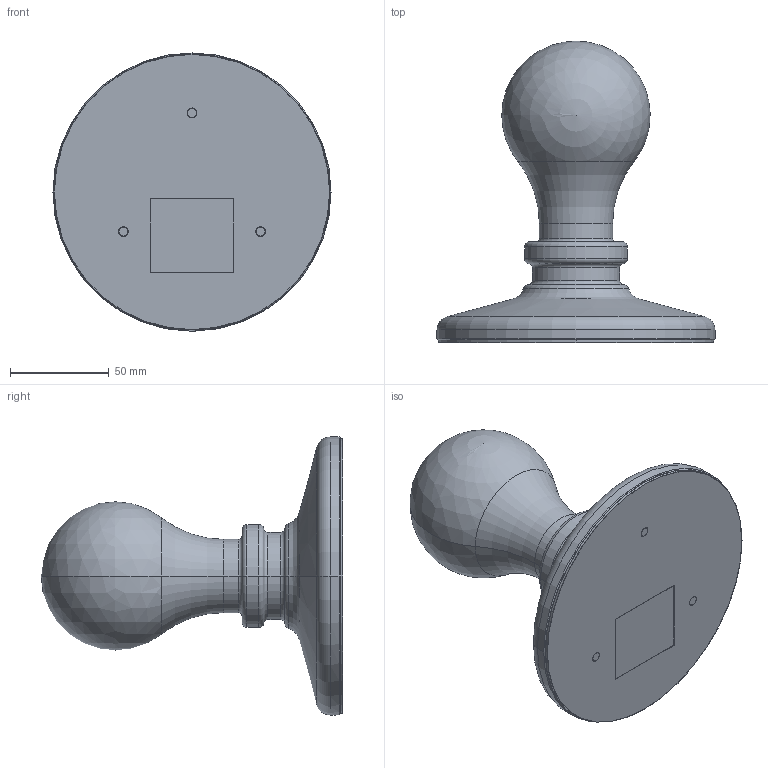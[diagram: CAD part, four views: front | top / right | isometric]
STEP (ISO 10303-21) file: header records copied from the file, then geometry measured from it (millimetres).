
FILE_DESCRIPTION (( 'STEP AP214' ), '1' );
FILE_NAME ('293_STD_T_LD_3D.STEP', '2021-05-24T13:08:46', ( '' ), ( '' ), 'SwSTEP 2.0', 'SolidWorks 2021', '' );
FILE_SCHEMA (( 'AUTOMOTIVE_DESIGN' ));
Length unit declared in the file: millimetre
Products named in the file (1): 293_STD_T_LD_3D
Bounding box: 140.5 x 152.4 x 140.5 mm (x, y, z)
Volume: 143251.6 mm3; surface area: 141043.9 mm2
Topology: 6 solids, 6 shells, 231 faces, 577 edges, 362 vertices
Faces by surface type: plane 95, cylinder 75, torus 36, cone 21, sphere 4
Entity records: 9582 total; most frequent: CARTESIAN_POINT 1441, DIRECTION 1194, ORIENTED_EDGE 1134, EDGE_CURVE 567, AXIS2_PLACEMENT_3D 471, VERTEX_POINT 356, LINE 252, VECTOR 252
